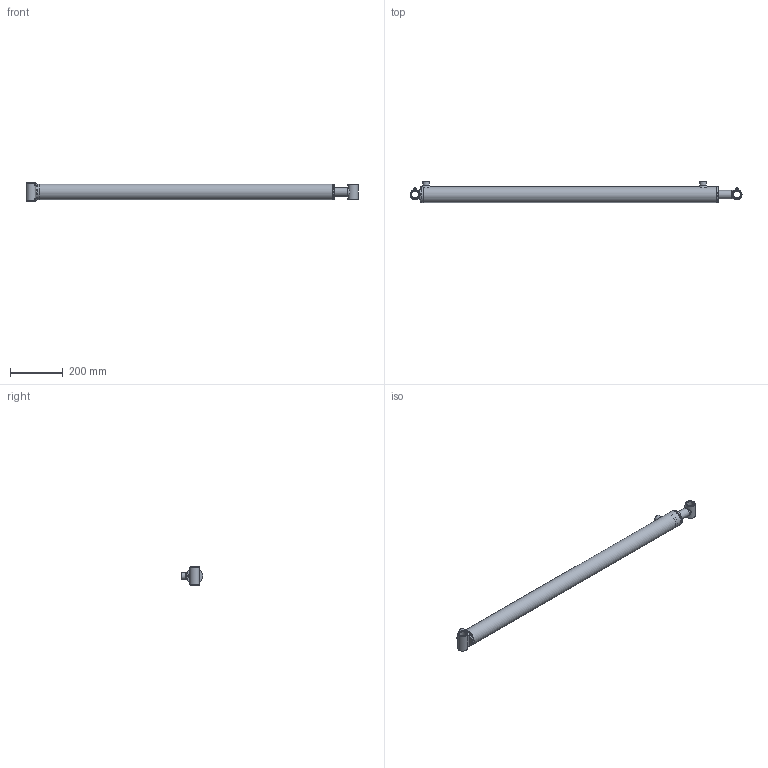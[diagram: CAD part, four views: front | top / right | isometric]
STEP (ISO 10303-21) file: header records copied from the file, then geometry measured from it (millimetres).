
FILE_DESCRIPTION(/* description */ (''),/* implementation_level */ '2;1');
FILE_NAME(/* name */ 'C:\01 - Philip\00 - Philip Rivard\01 - Contracts\Eagle Hydraulic Components\00 - 3D Cylinder\01 - Standard\HBU\HBU20XX\STEP\HBU2040.stp',/* time_stamp */ '2015-05-19T20:11:07-04:00',/* author */ ('Philip'),/* organization */ (''),/* preprocessor_version */ 'ST-DEVELOPER v16.1',/* originating_system */ 'Autodesk Inventor 2016',/* authorisation */ '');
FILE_SCHEMA (('AUTOMOTIVE_DESIGN { 1 0 10303 214 3 1 1 }'));
Length unit declared in the file: inch
Products named in the file (12): Tube_Welding_Welds; ECP-20-HBU; Tube; Straight_Port; Gland; Grease Fitting 1-8; Tube_Welding; Rod_Welding_Welds; Rod; Bushing; Rod_Welding; Cylinder_Assembly
Assembly tree (13 placements, depth 3):
  Cylinder_Assembly
    Tube_Welding
      Tube_Welding_Welds
      ECP-20-HBU
      Tube
      Straight_Port  x2
      Gland
      Grease Fitting 1-8
    Rod_Welding
      Rod_Welding_Welds
      Rod
      Bushing
      Grease Fitting 1-8
Bounding box: 1257.3 x 80.33 x 69.8 mm (x, y, z)
Volume: 2011657.2 mm3; surface area: 571682.4 mm2
Topology: 12 solids, 12 shells, 197 faces, 429 edges, 260 vertices
Faces by surface type: cone 65, plane 55, cylinder 50, torus 15, bspline 10, sphere 2
Full cylindrical faces by diameter (mm): 4 x2, 5 x1, 7.5 x2, 8 x2, 10 x2, 12.751 x2, 22 x1, 25 x4, 25.4 x2, 25.65 x2, 26 x1, 26.25 x1, 31.75 x2, 38.1 x2, 43 x1, 44.45 x1, 50.546 x1, 50.75 x1, 50.8 x1, 51 x1, 55 x4, 60.3 x1, 60.325 x1
Entity records: 6090 total; most frequent: CARTESIAN_POINT 2900, DIRECTION 631, ORIENTED_EDGE 486, AXIS2_PLACEMENT_3D 293, EDGE_LOOP 270, EDGE_CURVE 243, VERTEX_POINT 191, ADVANCED_FACE 157
